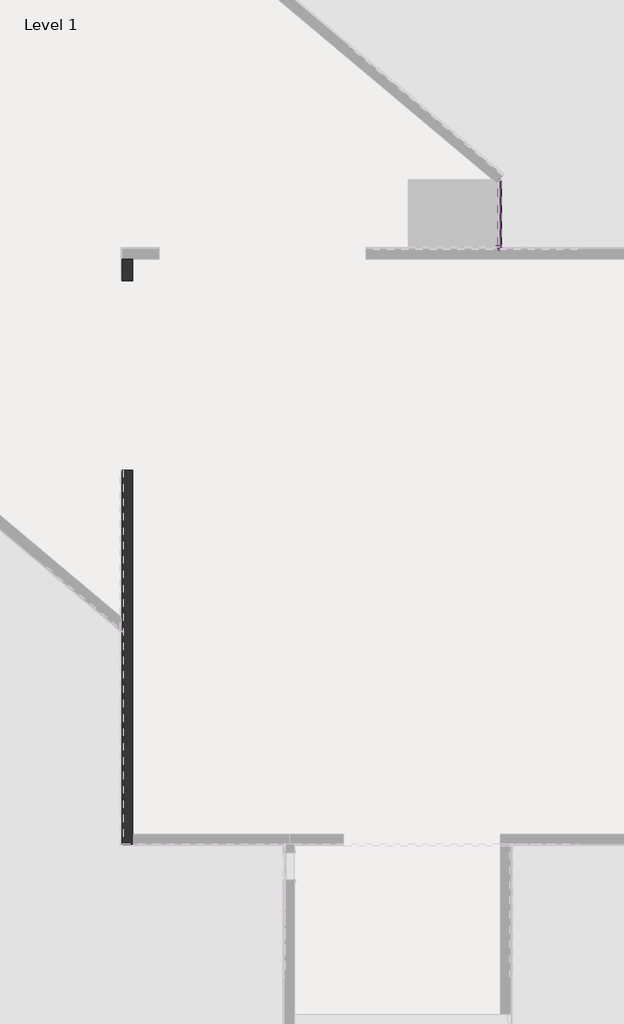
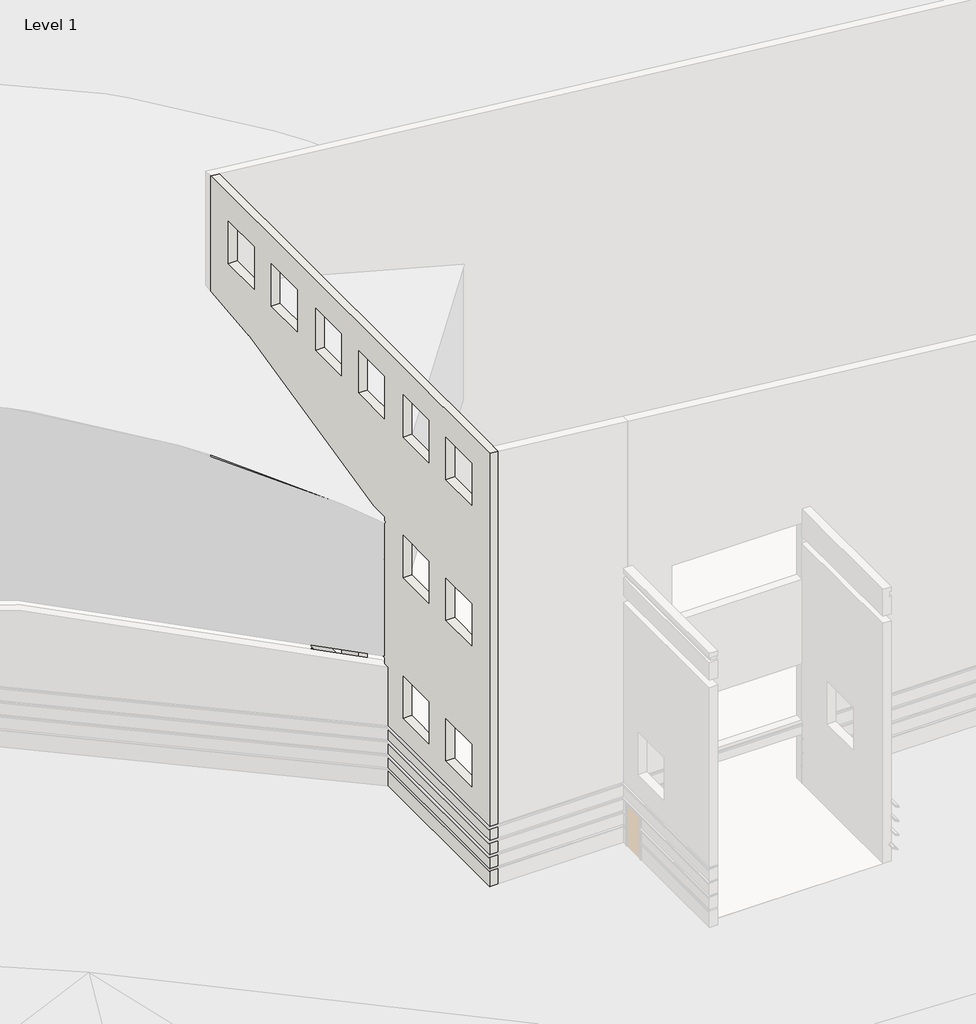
# One storey, part 4 of 6: 8 members, 3 plates, 1 wall.
"""IFC4 building model written with IfcOpenShell, lengths in millimetres."""

from ifc_helpers import new_model, si_unit, frame, origin, place, context, project, spatial, polyline, circle_curve, transform, mapped, element, save
from ifc_brep_helpers import plane_surface, revolved_surface, advanced_brep
from components import member_a82acab6, member_1b704979, member_34764c31, member_834be1e1, member_db8f3720, member_42eafe6b, system_panel_glazed_1ae2363b, system_panel_glazed_07eba4bf

model = new_model("IFC4")

# Units and contexts
model_context = context("Model", 3, world=origin())
ifc_project = project(units=[si_unit("LENGTHUNIT", "METRE", prefix="MILLI")], contexts=[model_context])

# Site, building, storey
site = spatial("IfcSite", under=ifc_project)
building = spatial("IfcBuilding", under=site)
storey = spatial("IfcBuildingStorey", under=building, Name="Level 1", Elevation=0.0)

# Members
placement = place(None, origin())
member_shape = member_a82acab6(model_context)
element("IfcMember", 1, ObjectType="Rectangular Mullion : 1.5\" x 2.5\" rectangular", at=placement, inside=storey, context=model_context, shape_type="MappedRepresentation", body=[
    mapped(member_shape, transform((-5348.7113943, 13077.3819938, 63.5), x_axis=(0.0, 1.0, 0.0), y_axis=(1.0, 0.0, 0.0), z_axis=(0.0, 0.0, -1.0))),
])
member_2_shape = member_1b704979(model_context)
element("IfcMember", 2, ObjectType="Rectangular Mullion : 1.5\" x 2.5\" rectangular", at=placement, inside=storey, context=model_context, shape_type="MappedRepresentation", body=[
    mapped(member_2_shape, transform((-5348.7113943, 13077.3819938, 1066.8), x_axis=(0.0, 1.0, 0.0), y_axis=(1.0, 0.0, 0.0), z_axis=(0.0, 0.0, -1.0))),
])
member_3_shape = member_34764c31(model_context)
element("IfcMember", 3, ObjectType="Rectangular Mullion : 2.5\" x 5\" rectangular", at=placement, inside=storey, context=model_context, shape_type="MappedRepresentation", body=[
    mapped(member_3_shape, transform((-5348.7113943, 13039.2819938, 1066.8), x_axis=(0.0, 0.0, 1.0), y_axis=(1.0, 0.0, 0.0), z_axis=(0.0, 1.0, 0.0))),
])
element("IfcMember", 4, ObjectType="Rectangular Mullion : 2.5\" x 5\" rectangular", at=placement, inside=storey, context=model_context, shape_type="MappedRepresentation", body=[
    mapped(member_3_shape, transform((-5348.7113943, 13039.2819938, 2133.6), x_axis=(0.0, 0.0, 1.0), y_axis=(1.0, 0.0, 0.0), z_axis=(0.0, 1.0, 0.0))),
])
member_4_shape = member_834be1e1(model_context)
element("IfcMember", 5, ObjectType="Rectangular Mullion : 2.5\" x 5\" rectangular", at=placement, inside=storey, context=model_context, shape_type="MappedRepresentation", body=[
    mapped(member_4_shape, transform((-5348.7113943, 10769.3870607, 0.0), x_axis=(0.0, 0.0, -1.0), y_axis=(1.0, 0.0, 0.0), z_axis=(0.0, -1.0, 0.0))),
])
member_5_shape = member_db8f3720(model_context)
element("IfcMember", 6, ObjectType="V Corner Mullion : 5\" V Corner", at=placement, inside=storey, context=model_context, shape_type="MappedRepresentation", body=[
    mapped(member_5_shape, transform((-5348.7113943, 10769.3870607, 2133.6), x_axis=(0.0, -1.0, 0.0), y_axis=(1.0, 0.0, 0.0), z_axis=(0.0, 0.0, 1.0))),
])
element("IfcMember", 7, ObjectType="V Corner Mullion : 5\" V Corner", at=placement, inside=storey, context=model_context, shape_type="MappedRepresentation", body=[
    mapped(member_5_shape, transform((-5348.7113943, 10769.3870607, 3200.4), x_axis=(0.0, -1.0, 0.0), y_axis=(1.0, 0.0, 0.0), z_axis=(0.0, 0.0, 1.0))),
])
member_6_shape = member_42eafe6b(model_context)
element("IfcMember", 8, ObjectType="V Corner Mullion : 5\" V Corner", at=placement, inside=storey, context=model_context, shape_type="MappedRepresentation", body=[
    mapped(member_6_shape, transform((-5348.7113943, 10769.3870607, 1066.8), x_axis=(0.0, -1.0, 0.0), y_axis=(1.0, 0.0, 0.0), z_axis=(0.0, 0.0, 1.0))),
])

# Plates
system_panel_glazed_shape = system_panel_glazed_1ae2363b(model_context)
element("IfcPlate", 9, ObjectType="System Panel : Glazed", at=placement, inside=storey, context=model_context, shape_type="MappedRepresentation", body=[
    mapped(system_panel_glazed_shape, transform((-5348.7113943, 11940.5959678, 63.5), x_axis=(0.0, -1.0, 0.0), y_axis=(1.0, 0.0, 0.0), z_axis=(0.0, 0.0, 1.0))),
])
system_panel_glazed_2_shape = system_panel_glazed_07eba4bf(model_context)
element("IfcPlate", 10, ObjectType="System Panel : Glazed", at=placement, inside=storey, context=model_context, shape_type="MappedRepresentation", body=[
    mapped(system_panel_glazed_2_shape, transform((-5348.7113943, 11940.5959678, 1098.55), x_axis=(0.0, -1.0, 0.0), y_axis=(1.0, 0.0, 0.0), z_axis=(0.0, 0.0, 1.0))),
])
element("IfcPlate", 11, ObjectType="System Panel : Glazed", at=placement, inside=storey, context=model_context, shape_type="MappedRepresentation", body=[
    mapped(system_panel_glazed_2_shape, transform((-5348.7113943, 11940.5959678, 2165.35), x_axis=(0.0, -1.0, 0.0), y_axis=(1.0, 0.0, 0.0), z_axis=(0.0, 0.0, 1.0))),
])

# Wall
element("IfcWall", 12, ObjectType="Exterior - Brick and CMU on MTL. Stud", at=placement, inside=storey, context=model_context, shape_type="AdvancedBrep", body=[
    advanced_brep(
    [(-17777.1136573, 3243.0495607, 5486.4), (-17777.1136573, 9643.8495607, 5486.4), (-17777.1136573, 9643.8495607, 304.8), (-17777.1136573, 10382.0370607, 304.8), (-17777.1136573, 10382.0370607, 19055.1063791), (-17777.1136573, -9077.5379393, 19055.1063791), (-17777.1136573, -9429.9629393, 19055.1063791), (-17777.1136573, -9429.9629393, 2912.5333333), (-17777.1136573, -9404.5629393, 2912.5333333), (-17777.1136573, -9404.5629393, 2844.8), (-17777.1136573, -9429.9629393, 2844.8), (-17777.1136573, -9429.9629393, 2302.9333333), (-17777.1136573, -9404.5629393, 2302.9333333), (-17777.1136573, -9404.5629393, 2235.2), (-17777.1136573, -9429.9629393, 2235.2), (-17777.1136573, -9429.9629393, 1693.3333333), (-17777.1136573, -9404.5629393, 1693.3333333), (-17777.1136573, -9404.5629393, 1625.6), (-17777.1136573, -9429.9629393, 1625.6), (-17777.1136573, -9429.9629393, 1085.85), (-17777.1136573, -9337.8879393, 1085.85), (-17777.1136573, -9337.8879393, 1016.0), (-17777.1136573, -9429.9629393, 1016.0), (-17777.1136573, -9429.9629393, 0.0), (-17777.1136573, -9090.2379393, 0.0), (-17777.1136573, -9090.2379393, 304.8), (-17777.1136573, -9077.5379393, 304.8), (-17777.1136573, 3243.0495607, 304.8), (-17777.1136573, 3852.6495607, 11582.4), (-17777.1136573, 9161.9803961, 11582.4), (-17777.1136573, 9161.9803961, 9144.0), (-17777.1136573, 3852.6495607, 9144.0), (-17777.1136573, -8161.5504393, 16067.2335849), (-17777.1136573, -8161.5504393, 17896.0335849), (-17777.1136573, -6332.7504393, 17896.0335849), (-17777.1136573, -6332.7504393, 16067.2335849), (-17777.1136573, -5113.5504393, 16067.2335849), (-17777.1136573, -5113.5504393, 17896.0335849), (-17777.1136573, -3284.7504393, 17896.0335849), (-17777.1136573, -3284.7504393, 16067.2335849), (-17777.1136573, 9113.6245607, 17896.0335849), (-17777.1136573, 9113.6245607, 16067.2335849), (-17777.1136573, 7284.8245607, 16067.2335849), (-17777.1136573, 7284.8245607, 17896.0335849), (-17777.1136573, 6065.6245607, 17896.0335849), (-17777.1136573, 6065.6245607, 16067.2335849), (-17777.1136573, 4236.8245607, 16067.2335849), (-17777.1136573, 4236.8245607, 17896.0335849), (-17777.1136573, -8161.5504393, 9971.2335849), (-17777.1136573, -8161.5504393, 11800.0335849), (-17777.1136573, -6332.7504393, 11800.0335849), (-17777.1136573, -6332.7504393, 9971.2335849), (-17777.1136573, -5113.5504393, 9971.2335849), (-17777.1136573, -5113.5504393, 11800.0335849), (-17777.1136573, -3284.7504393, 11800.0335849), (-17777.1136573, -3284.7504393, 9971.2335849), (-17777.1136573, -8161.5504393, 3875.2335849), (-17777.1136573, -8161.5504393, 5704.0335849), (-17777.1136573, -6332.7504393, 5704.0335849), (-17777.1136573, -6332.7504393, 3875.2335849), (-17777.1136573, -5113.5504393, 3875.2335849), (-17777.1136573, -5113.5504393, 5704.0335849), (-17777.1136573, -3284.7504393, 5704.0335849), (-17777.1136573, -3284.7504393, 3875.2335849), (-17777.1136573, -1962.3629393, 16067.2335849), (-17777.1136573, -1962.3629393, 17896.0335849), (-17777.1136573, -133.5629393, 17896.0335849), (-17777.1136573, -133.5629393, 16067.2335849), (-17777.1136573, 1085.6370607, 16067.2335849), (-17777.1136573, 1085.6370607, 17896.0335849), (-17777.1136573, 2914.4370607, 17896.0335849), (-17777.1136573, 2914.4370607, 16067.2335849), (-17777.1136573, -1962.3629393, 9971.2335849), (-17777.1136573, -1962.3629393, 11800.0335849), (-17777.1136573, -133.5629393, 11800.0335849), (-17777.1136573, -133.5629393, 9971.2335849), (-17777.1136573, 1085.6370607, 9971.2335849), (-17777.1136573, 1085.6370607, 11800.0335849), (-17777.1136573, 2914.4370607, 11800.0335849), (-17777.1136573, 2914.4370607, 9971.2335849), (-17777.1136573, -1962.3629393, 3875.2335849), (-17777.1136573, -1962.3629393, 5704.0335849), (-17777.1136573, -133.5629393, 5704.0335849), (-17777.1136573, -133.5629393, 3875.2335849), (-17777.1136573, 1085.6370607, 3875.2335849), (-17777.1136573, 1085.6370607, 5704.0335849), (-17777.1136573, 2914.4370607, 5704.0335849), (-17777.1136573, 2914.4370607, 3875.2335849), (-18129.5386573, 9643.8495607, 5486.4), (-18129.5386573, 3243.0495607, 5486.4), (-18129.5386573, 3243.0495607, 3048.0), (-18129.5386573, 3011.2707354, 3048.0), (-18129.5386573, 3011.2707354, 2943.225), (-18129.5386573, 3243.0495607, 2943.225), (-18129.5386573, 3243.0495607, 2912.5333333), (-18129.5386573, -2189.4444924, 2912.5333333), (-18129.5386573, -2222.6018375, 2912.5333333), (-18129.5386573, -9429.9629393, 2912.5333333), (-18129.5386573, -9429.9629393, 19092.1477392), (-18129.5386573, 10382.0370607, 19092.1477392), (-18129.5386573, 10382.0370607, 3048.0), (-18129.5386573, 9643.8495607, 3048.0), (-18129.5386573, 9161.9803961, 11582.4), (-18129.5386573, 3852.6495607, 11582.4), (-18129.5386573, 3852.6495607, 9144.0), (-18129.5386573, 9161.9803961, 9144.0), (-18129.5386573, -8161.5504393, 17896.0335849), (-18129.5386573, -8161.5504393, 16067.2335849), (-18129.5386573, -6332.7504393, 16067.2335849), (-18129.5386573, -6332.7504393, 17896.0335849), (-18129.5386573, -5113.5504393, 17896.0335849), (-18129.5386573, -5113.5504393, 16067.2335849), (-18129.5386573, -3284.7504393, 16067.2335849), (-18129.5386573, -3284.7504393, 17896.0335849), (-18129.5386573, 9113.6245607, 16067.2335849), (-18129.5386573, 9113.6245607, 17896.0335849), (-18129.5386573, 7284.8245607, 17896.0335849), (-18129.5386573, 7284.8245607, 16067.2335849), (-18129.5386573, 6065.6245607, 16067.2335849), (-18129.5386573, 6065.6245607, 17896.0335849), (-18129.5386573, 4236.8245607, 17896.0335849), (-18129.5386573, 4236.8245607, 16067.2335849), (-18129.5386573, -8161.5504393, 11800.0335849), (-18129.5386573, -8161.5504393, 9971.2335849), (-18129.5386573, -6332.7504393, 9971.2335849), (-18129.5386573, -6332.7504393, 11800.0335849), (-18129.5386573, -5113.5504393, 11800.0335849), (-18129.5386573, -5113.5504393, 9971.2335849), (-18129.5386573, -3284.7504393, 9971.2335849), (-18129.5386573, -3284.7504393, 11800.0335849), (-18129.5386573, -8161.5504393, 5704.0335849), (-18129.5386573, -8161.5504393, 3875.2335849), (-18129.5386573, -6332.7504393, 3875.2335849), (-18129.5386573, -6332.7504393, 5704.0335849), (-18129.5386573, -5113.5504393, 5704.0335849), (-18129.5386573, -5113.5504393, 3875.2335849), (-18129.5386573, -3284.7504393, 3875.2335849), (-18129.5386573, -3284.7504393, 5704.0335849), (-18129.5386573, -1962.3629393, 17896.0335849), (-18129.5386573, -1962.3629393, 16067.2335849), (-18129.5386573, -133.5629393, 16067.2335849), (-18129.5386573, -133.5629393, 17896.0335849), (-18129.5386573, 1085.6370607, 17896.0335849), (-18129.5386573, 1085.6370607, 16067.2335849), (-18129.5386573, 2914.4370607, 16067.2335849), (-18129.5386573, 2914.4370607, 17896.0335849), (-18129.5386573, -1962.3629393, 11800.0335849), (-18129.5386573, -1962.3629393, 9971.2335849), (-18129.5386573, -133.5629393, 9971.2335849), (-18129.5386573, -133.5629393, 11800.0335849), (-18129.5386573, 1085.6370607, 11800.0335849), (-18129.5386573, 1085.6370607, 9971.2335849), (-18129.5386573, 2914.4370607, 9971.2335849), (-18129.5386573, 2914.4370607, 11800.0335849), (-18129.5386573, -1962.3629393, 5704.0335849), (-18129.5386573, -1962.3629393, 3875.2335849), (-18129.5386573, -133.5629393, 3875.2335849), (-18129.5386573, -133.5629393, 5704.0335849), (-18129.5386573, 1085.6370607, 5704.0335849), (-18129.5386573, 1085.6370607, 3875.2335849), (-18129.5386573, 2914.4370607, 3875.2335849), (-18129.5386573, 2914.4370607, 5704.0335849), (-18129.5386573, 10382.0370607, 1693.3333333), (-18129.5386573, 9643.8495607, 1693.3333333), (-18129.5386573, 9643.8495607, 2235.2), (-18129.5386573, 10382.0370607, 2235.2), (-18129.5386573, 9643.8495607, 1625.6), (-18129.5386573, 10382.0370607, 1625.6), (-18129.5386573, 10382.0370607, 1085.85), (-18129.5386573, 9643.8495607, 1085.85), (-18129.5386573, 3243.0495607, 1693.3333333), (-18129.5386573, -2189.4444924, 1693.3333333), (-18129.5386573, -2222.6018375, 1693.3333333), (-18129.5386573, -9429.9629393, 1693.3333333), (-18129.5386573, -9429.9629393, 2235.2), (-18129.5386573, -2222.6018375, 2235.2), (-18129.5386573, -2189.4444924, 2235.2), (-18129.5386573, 3243.0495607, 2235.2), (-18129.5386573, -9429.9629393, 1625.6), (-18129.5386573, -2222.6018375, 1625.6), (-18129.5386573, -2189.4444924, 1625.6), (-18129.5386573, 3243.0495607, 1625.6), (-18129.5386573, 3243.0495607, 1085.85), (-18129.5386573, -2102.4064614, 1085.85), (-18129.5386573, -2222.6018375, 1085.85), (-18129.5386573, -9429.9629393, 1085.85), (-18129.5386573, 10382.0370607, 2302.9333333), (-18129.5386573, 9643.8495607, 2302.9333333), (-18129.5386573, 9643.8495607, 2844.8), (-18129.5386573, 10382.0370607, 2844.8), (-18129.5386573, 3243.0495607, 2302.9333333), (-18129.5386573, -2189.4444924, 2302.9333333), (-18129.5386573, -2222.6018375, 2302.9333333), (-18129.5386573, -9429.9629393, 2302.9333333), (-18129.5386573, -9429.9629393, 2844.8), (-18129.5386573, -2222.6018375, 2844.8), (-18129.5386573, -2189.4444924, 2844.8), (-18129.5386573, 3243.0495607, 2844.8), (-18129.5386573, 10382.0370607, 2912.5333333), (-18129.5386573, 9643.8495607, 2912.5333333), (-18129.5386573, 9643.8495607, 2943.225), (-18129.5386573, 10382.0370607, 2943.225), (-18129.5386573, -9429.9629393, 0.0), (-18129.5386573, -9429.9629393, 1016.0), (-18129.5386573, -2222.6018375, 1016.0), (-18129.5386573, -2102.4064614, 1016.0), (-18129.5386573, 3243.0495607, 1016.0), (-18129.5386573, 3243.0495607, 304.8), (-18129.5386573, -1992.5727556, 304.8), (-18129.5386573, -1992.5727556, 0.0), (-18129.5386573, -2222.6018375, 0.0), (-18129.5386573, 9643.8495607, 1016.0), (-18129.5386573, 10382.0370607, 1016.0), (-18129.5386573, 10382.0370607, 304.8), (-18129.5386573, 9643.8495607, 304.8), (-18037.4636573, -9429.9629393, 0.0), (-18037.4636573, -2069.8328541, 0.0), (-17789.8136573, -2277.6358778, 0.0), (-17789.8136573, -9090.2379393, 0.0), (-18037.4636573, 10382.0370607, 1016.0), (-18037.4636573, 10382.0370607, 1085.85), (-18104.1386573, 10382.0370607, 1625.6), (-18104.1386573, 10382.0370607, 1693.3333333), (-18104.1386573, 10382.0370607, 2235.2), (-18104.1386573, 10382.0370607, 2302.9333333), (-18104.1386573, 10382.0370607, 2844.8), (-18104.1386573, 10382.0370607, 2912.5333333), (-17789.8136573, 10382.0370607, 2943.225), (-17789.8136573, 10382.0370607, 3048.0), (-18037.4636573, 3243.0495607, 1016.0), (-18037.4636573, 3243.0495607, 1085.85), (-18104.1386573, 3243.0495607, 1625.6), (-18104.1386573, 3243.0495607, 1693.3333333), (-18104.1386573, 3243.0495607, 2235.2), (-18104.1386573, 3243.0495607, 2302.9333333), (-18104.1386573, 3243.0495607, 2844.8), (-18104.1386573, 3243.0495607, 2912.5333333), (-17789.8136573, 3243.0495607, 2943.225), (-17789.8136573, 3243.0495607, 3048.0), (-17789.8136573, 9643.8495607, 3048.0), (-17789.8136573, 9643.8495607, 2943.225), (-18104.1386573, 9643.8495607, 2912.5333333), (-18104.1386573, 9643.8495607, 2844.8), (-18104.1386573, 9643.8495607, 2302.9333333), (-18104.1386573, 9643.8495607, 2235.2), (-18104.1386573, 9643.8495607, 1693.3333333), (-18104.1386573, 9643.8495607, 1625.6), (-18037.4636573, 9643.8495607, 1085.85), (-18037.4636573, 9643.8495607, 1016.0), (-18104.1386573, -9404.5629393, 1693.3333333), (-18104.1386573, -9404.5629393, 1625.6), (-18104.1386573, -9404.5629393, 2302.9333333), (-18104.1386573, -9404.5629393, 2235.2), (-18104.1386573, -9404.5629393, 2912.5333333), (-18104.1386573, -9404.5629393, 2844.8), (-18037.4636573, -9337.8879393, 1085.85), (-18037.4636573, -9337.8879393, 1016.0), (-17789.8136573, 2943.4272892, 2943.225), (-17789.8136573, 2943.4272892, 3048.0), (-17789.8136573, -9090.2379393, 304.8), (-17789.8136573, -2277.6358778, 304.8)],
    [
        (0, 1),
        (1, 2),
        (2, 3),
        (3, 4),
        (4, 5),
        (5, 6),
        (6, 7),
        (7, 8),
        (8, 9),
        (9, 10),
        (10, 11),
        (11, 12),
        (12, 13),
        (13, 14),
        (14, 15),
        (15, 16),
        (16, 17),
        (17, 18),
        (18, 19),
        (19, 20),
        (20, 21),
        (21, 22),
        (22, 23),
        (23, 24),
        (24, 25),
        (25, 26),
        (26, 27),
        (27, 0),
        (28, 29),
        (29, 30),
        (30, 31),
        (31, 28),
        (32, 33),
        (33, 34),
        (34, 35),
        (35, 32),
        (36, 37),
        (37, 38),
        (38, 39),
        (39, 36),
        (40, 41),
        (41, 42),
        (42, 43),
        (43, 40),
        (44, 45),
        (45, 46),
        (46, 47),
        (47, 44),
        (48, 49),
        (49, 50),
        (50, 51),
        (51, 48),
        (52, 53),
        (53, 54),
        (54, 55),
        (55, 52),
        (56, 57),
        (57, 58),
        (58, 59),
        (59, 56),
        (60, 61),
        (61, 62),
        (62, 63),
        (63, 60),
        (64, 65),
        (65, 66),
        (66, 67),
        (67, 64),
        (68, 69),
        (69, 70),
        (70, 71),
        (71, 68),
        (72, 73),
        (73, 74),
        (74, 75),
        (75, 72),
        (76, 77),
        (77, 78),
        (78, 79),
        (79, 76),
        (80, 81),
        (81, 82),
        (82, 83),
        (83, 80),
        (84, 85),
        (85, 86),
        (86, 87),
        (87, 84),
        (88, 89),
        (89, 90),
        (90, 91),
        (91, 92),
        (92, 93),
        (93, 94),
        (94, 95),
        (95, 96),
        (96, 97),
        (97, 98),
        (98, 99),
        (99, 100),
        (100, 101),
        (101, 88),
        (102, 103),
        (103, 104),
        (104, 105),
        (105, 102),
        (106, 107),
        (107, 108),
        (108, 109),
        (109, 106),
        (110, 111),
        (111, 112),
        (112, 113),
        (113, 110),
        (114, 115),
        (115, 116),
        (116, 117),
        (117, 114),
        (118, 119),
        (119, 120),
        (120, 121),
        (121, 118),
        (122, 123),
        (123, 124),
        (124, 125),
        (125, 122),
        (126, 127),
        (127, 128),
        (128, 129),
        (129, 126),
        (130, 131),
        (131, 132),
        (132, 133),
        (133, 130),
        (134, 135),
        (135, 136),
        (136, 137),
        (137, 134),
        (138, 139),
        (139, 140),
        (140, 141),
        (141, 138),
        (142, 143),
        (143, 144),
        (144, 145),
        (145, 142),
        (146, 147),
        (147, 148),
        (148, 149),
        (149, 146),
        (150, 151),
        (151, 152),
        (152, 153),
        (153, 150),
        (154, 155),
        (155, 156),
        (156, 157),
        (157, 154),
        (158, 159),
        (159, 160),
        (160, 161),
        (161, 158),
        (162, 163),
        (163, 164),
        (164, 165),
        (165, 162),
        (166, 167),
        (167, 168),
        (168, 169),
        (169, 166),
        (170, 171),
        (171, 172),
        (172, 173),
        (173, 174),
        (174, 175),
        (175, 176),
        (176, 177),
        (177, 170),
        (178, 179),
        (179, 180),
        (180, 181),
        (181, 182),
        (182, 183),
        (183, 184),
        (184, 185),
        (185, 178),
        (186, 187),
        (187, 188),
        (188, 189),
        (189, 186),
        (190, 191),
        (191, 192),
        (192, 193),
        (193, 194),
        (194, 195),
        (195, 196),
        (196, 197),
        (197, 190),
        (198, 199),
        (199, 200),
        (200, 201),
        (201, 198),
        (202, 203),
        (203, 204),
        (204, 205),
        (205, 206),
        (206, 207),
        (207, 208),
        (208, 209),
        (209, 210),
        (210, 202),
        (211, 212),
        (212, 213),
        (213, 214),
        (214, 211),
        (23, 215),
        (215, 216),
        (216, 217),
        (217, 218),
        (218, 24),
        (22, 203),
        (202, 215),
        (6, 98),
        (97, 7),
        (173, 15),
        (14, 174),
        (18, 178),
        (185, 19),
        (193, 11),
        (10, 194),
        (99, 4),
        (3, 213),
        (212, 219),
        (219, 220),
        (220, 168),
        (167, 221),
        (221, 222),
        (222, 162),
        (165, 223),
        (223, 224),
        (224, 186),
        (189, 225),
        (225, 226),
        (226, 198),
        (201, 227),
        (227, 228),
        (228, 100),
        (0, 89),
        (88, 1),
        (27, 207),
        (206, 229),
        (229, 230),
        (230, 182),
        (181, 231),
        (231, 232),
        (232, 170),
        (177, 233),
        (233, 234),
        (234, 190),
        (197, 235),
        (235, 236),
        (236, 94),
        (93, 237),
        (237, 238),
        (238, 90),
        (101, 239),
        (239, 240),
        (240, 200),
        (199, 241),
        (241, 242),
        (242, 188),
        (187, 243),
        (243, 244),
        (244, 164),
        (163, 245),
        (245, 246),
        (246, 166),
        (169, 247),
        (247, 248),
        (248, 211),
        (214, 2),
        (209, 216),
        (28, 103),
        (102, 29),
        (30, 105),
        (104, 31),
        (106, 33),
        (32, 107),
        (35, 108),
        (34, 109),
        (110, 37),
        (36, 111),
        (39, 112),
        (38, 113),
        (40, 115),
        (114, 41),
        (117, 42),
        (116, 43),
        (44, 119),
        (118, 45),
        (121, 46),
        (120, 47),
        (122, 49),
        (48, 123),
        (51, 124),
        (50, 125),
        (126, 53),
        (52, 127),
        (55, 128),
        (54, 129),
        (130, 57),
        (56, 131),
        (59, 132),
        (58, 133),
        (134, 61),
        (60, 135),
        (63, 136),
        (62, 137),
        (138, 65),
        (64, 139),
        (67, 140),
        (66, 141),
        (142, 69),
        (68, 143),
        (71, 144),
        (70, 145),
        (146, 73),
        (72, 147),
        (75, 148),
        (74, 149),
        (150, 77),
        (76, 151),
        (79, 152),
        (78, 153),
        (154, 81),
        (80, 155),
        (83, 156),
        (82, 157),
        (158, 85),
        (84, 159),
        (87, 160),
        (86, 161),
        (232, 249),
        (249, 16),
        (250, 231),
        (17, 250),
        (249, 250),
        (222, 245),
        (246, 221),
        (234, 251),
        (251, 12),
        (252, 233),
        (13, 252),
        (251, 252),
        (224, 243),
        (244, 223),
        (236, 253),
        (253, 8),
        (254, 235),
        (9, 254),
        (253, 254),
        (226, 241),
        (242, 225),
        (230, 255),
        (255, 20),
        (256, 229),
        (21, 256),
        (255, 256),
        (220, 247),
        (248, 219),
        (92, 257, circle_curve(frame((-16606.4056585, 9753.8299598, 2943.225), z_axis=(0.0, 0.0, 1.0), x_axis=(1.0, 0.0, 0.0)), 6912.4553545)),
        (257, 237),
        (240, 227),
        (238, 258),
        (258, 91, circle_curve(frame((-16606.4056585, 9753.8299598, 3048.0), z_axis=(0.0, 0.0, -1.0), x_axis=(1.0, 0.0, 0.0)), 6912.4553545)),
        (228, 239),
        (257, 258),
        (259, 260),
        (260, 208),
        (25, 259),
        (218, 259),
        (217, 260),
    ],
    [
        plane_surface(frame((-17777.1136573, 10070.7162579, 0.0), z_axis=(1.0, 0.0, 0.0), x_axis=(0.0, 1.0, 0.0))),
        plane_surface(frame((-18129.5386573, 10070.7162579, 0.0), z_axis=(-1.0, 0.0, 0.0), x_axis=(0.0, -1.0, 0.0))),
        plane_surface(frame((-17777.1136573, -9253.7504393, 0.0), z_axis=(0.0, 0.0, -1.0), x_axis=(-1.0, 0.0, 0.0))),
        plane_surface(frame((18165.4738427, -9429.9629393, 0.0), z_axis=(0.0, -1.0, 0.0), x_axis=(1.0, 0.0, 0.0))),
        plane_surface(frame((-17953.3261573, 10382.0370607, 0.0), z_axis=(0.0, 1.0, 0.0), x_axis=(1.0, 0.0, 0.0))),
        plane_surface(frame((-18129.5386573, 3243.0495607, 5486.4), z_axis=(0.0, 0.0, -1.0), x_axis=(0.0, -1.0, 0.0))),
        plane_surface(frame((-18129.5386573, 3243.0495607, 5486.4), z_axis=(0.0, 1.0, 0.0), x_axis=(0.0, 0.0, -1.0))),
        plane_surface(frame((-17777.1136573, 9643.8495607, 5486.4), z_axis=(0.0, -1.0, 0.0), x_axis=(0.0, 0.0, -1.0))),
        plane_surface(frame((0.0, 0.0, 0.0), z_axis=(0.0, 0.0, -1.0), x_axis=(1.0, 0.0, 0.0))),
        plane_surface(frame((19653.3535836, 11867.9370607, 15121.0057441), z_axis=(0.1045284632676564, 0.0, 0.9945218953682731), x_axis=(0.0, -1.0, 0.0))),
        plane_surface(frame((-18129.5386573, 3852.6495607, 11582.4), z_axis=(0.0, 0.0, -1.0), x_axis=(0.0, -1.0, 0.0))),
        plane_surface(frame((-18129.5386573, 3852.6495607, 9144.0), z_axis=(0.0, 0.0, 1.0), x_axis=(0.0, 1.0, 0.0))),
        plane_surface(frame((-18129.5386573, 3852.6495607, 11582.4), z_axis=(0.0, 1.0, 0.0), x_axis=(0.0, 0.0, -1.0))),
        plane_surface(frame((-17777.1136573, 9161.9803961, 11582.4), z_axis=(0.0, -1.0, 0.0), x_axis=(0.0, 0.0, -1.0))),
        plane_surface(frame((-18129.5386573, -8161.5504393, 17896.0335849), z_axis=(0.0, 1.0, 0.0), x_axis=(1.0, 0.0, 0.0))),
        plane_surface(frame((-18129.5386573, -8161.5504393, 16067.2335849), z_axis=(0.0, 0.0, 1.0), x_axis=(1.0, 0.0, 0.0))),
        plane_surface(frame((-18129.5386573, -6332.7504393, 16067.2335849), z_axis=(0.0, -1.0, 0.0), x_axis=(1.0, 0.0, 0.0))),
        plane_surface(frame((-18129.5386573, -6332.7504393, 17896.0335849), z_axis=(0.0, 0.0, -1.0), x_axis=(1.0, 0.0, 0.0))),
        plane_surface(frame((-18129.5386573, -5113.5504393, 17896.0335849), z_axis=(0.0, 1.0, 0.0), x_axis=(1.0, 0.0, 0.0))),
        plane_surface(frame((-18129.5386573, -5113.5504393, 16067.2335849), z_axis=(0.0, 0.0, 1.0), x_axis=(1.0, 0.0, 0.0))),
        plane_surface(frame((-18129.5386573, -3284.7504393, 16067.2335849), z_axis=(0.0, -1.0, 0.0), x_axis=(1.0, 0.0, 0.0))),
        plane_surface(frame((-18129.5386573, -3284.7504393, 17896.0335849), z_axis=(0.0, 0.0, -1.0), x_axis=(1.0, 0.0, 0.0))),
        plane_surface(frame((-17777.1136573, 9113.6245607, 17896.0335849), z_axis=(0.0, -1.0, 0.0), x_axis=(-1.0, 0.0, 0.0))),
        plane_surface(frame((-17777.1136573, 9113.6245607, 16067.2335849), z_axis=(0.0, 0.0, 1.0), x_axis=(-1.0, 0.0, 0.0))),
        plane_surface(frame((-17777.1136573, 7284.8245607, 16067.2335849), z_axis=(0.0, 1.0, 0.0), x_axis=(-1.0, 0.0, 0.0))),
        plane_surface(frame((-17777.1136573, 7284.8245607, 17896.0335849), z_axis=(0.0, 0.0, -1.0), x_axis=(-1.0, 0.0, 0.0))),
        plane_surface(frame((-17777.1136573, 6065.6245607, 17896.0335849), z_axis=(0.0, -1.0, 0.0), x_axis=(-1.0, 0.0, 0.0))),
        plane_surface(frame((-17777.1136573, 6065.6245607, 16067.2335849), z_axis=(0.0, 0.0, 1.0), x_axis=(-1.0, 0.0, 0.0))),
        plane_surface(frame((-17777.1136573, 4236.8245607, 16067.2335849), z_axis=(0.0, 1.0, 0.0), x_axis=(-1.0, 0.0, 0.0))),
        plane_surface(frame((-17777.1136573, 4236.8245607, 17896.0335849), z_axis=(0.0, 0.0, -1.0), x_axis=(-1.0, 0.0, 0.0))),
        plane_surface(frame((-18129.5386573, -8161.5504393, 11800.0335849), z_axis=(0.0, 1.0, 0.0), x_axis=(1.0, 0.0, 0.0))),
        plane_surface(frame((-18129.5386573, -8161.5504393, 9971.2335849), z_axis=(0.0, 0.0, 1.0), x_axis=(1.0, 0.0, 0.0))),
        plane_surface(frame((-18129.5386573, -6332.7504393, 9971.2335849), z_axis=(0.0, -1.0, 0.0), x_axis=(1.0, 0.0, 0.0))),
        plane_surface(frame((-18129.5386573, -6332.7504393, 11800.0335849), z_axis=(0.0, 0.0, -1.0), x_axis=(1.0, 0.0, 0.0))),
        plane_surface(frame((-18129.5386573, -5113.5504393, 11800.0335849), z_axis=(0.0, 1.0, 0.0), x_axis=(1.0, 0.0, 0.0))),
        plane_surface(frame((-18129.5386573, -5113.5504393, 9971.2335849), z_axis=(0.0, 0.0, 1.0), x_axis=(1.0, 0.0, 0.0))),
        plane_surface(frame((-18129.5386573, -3284.7504393, 9971.2335849), z_axis=(0.0, -1.0, 0.0), x_axis=(1.0, 0.0, 0.0))),
        plane_surface(frame((-18129.5386573, -3284.7504393, 11800.0335849), z_axis=(0.0, 0.0, -1.0), x_axis=(1.0, 0.0, 0.0))),
        plane_surface(frame((-18129.5386573, -8161.5504393, 5704.0335849), z_axis=(0.0, 1.0, 0.0), x_axis=(1.0, 0.0, 0.0))),
        plane_surface(frame((-18129.5386573, -8161.5504393, 3875.2335849), z_axis=(0.0, 0.0, 1.0), x_axis=(1.0, 0.0, 0.0))),
        plane_surface(frame((-18129.5386573, -6332.7504393, 3875.2335849), z_axis=(0.0, -1.0, 0.0), x_axis=(1.0, 0.0, 0.0))),
        plane_surface(frame((-18129.5386573, -6332.7504393, 5704.0335849), z_axis=(0.0, 0.0, -1.0), x_axis=(1.0, 0.0, 0.0))),
        plane_surface(frame((-18129.5386573, -5113.5504393, 5704.0335849), z_axis=(0.0, 1.0, 0.0), x_axis=(1.0, 0.0, 0.0))),
        plane_surface(frame((-18129.5386573, -5113.5504393, 3875.2335849), z_axis=(0.0, 0.0, 1.0), x_axis=(1.0, 0.0, 0.0))),
        plane_surface(frame((-18129.5386573, -3284.7504393, 3875.2335849), z_axis=(0.0, -1.0, 0.0), x_axis=(1.0, 0.0, 0.0))),
        plane_surface(frame((-18129.5386573, -3284.7504393, 5704.0335849), z_axis=(0.0, 0.0, -1.0), x_axis=(1.0, 0.0, 0.0))),
        plane_surface(frame((-18129.5386573, -1962.3629393, 17896.0335849), z_axis=(0.0, 1.0, 0.0), x_axis=(1.0, 0.0, 0.0))),
        plane_surface(frame((-18129.5386573, -1962.3629393, 16067.2335849), z_axis=(0.0, 0.0, 1.0), x_axis=(1.0, 0.0, 0.0))),
        plane_surface(frame((-18129.5386573, -133.5629393, 16067.2335849), z_axis=(0.0, -1.0, 0.0), x_axis=(1.0, 0.0, 0.0))),
        plane_surface(frame((-18129.5386573, -133.5629393, 17896.0335849), z_axis=(0.0, 0.0, -1.0), x_axis=(1.0, 0.0, 0.0))),
        plane_surface(frame((-18129.5386573, 1085.6370607, 17896.0335849), z_axis=(0.0, 1.0, 0.0), x_axis=(1.0, 0.0, 0.0))),
        plane_surface(frame((-18129.5386573, 1085.6370607, 16067.2335849), z_axis=(0.0, 0.0, 1.0), x_axis=(1.0, 0.0, 0.0))),
        plane_surface(frame((-18129.5386573, 2914.4370607, 16067.2335849), z_axis=(0.0, -1.0, 0.0), x_axis=(1.0, 0.0, 0.0))),
        plane_surface(frame((-18129.5386573, 2914.4370607, 17896.0335849), z_axis=(0.0, 0.0, -1.0), x_axis=(1.0, 0.0, 0.0))),
        plane_surface(frame((-18129.5386573, -1962.3629393, 11800.0335849), z_axis=(0.0, 1.0, 0.0), x_axis=(1.0, 0.0, 0.0))),
        plane_surface(frame((-18129.5386573, -1962.3629393, 9971.2335849), z_axis=(0.0, 0.0, 1.0), x_axis=(1.0, 0.0, 0.0))),
        plane_surface(frame((-18129.5386573, -133.5629393, 9971.2335849), z_axis=(0.0, -1.0, 0.0), x_axis=(1.0, 0.0, 0.0))),
        plane_surface(frame((-18129.5386573, -133.5629393, 11800.0335849), z_axis=(0.0, 0.0, -1.0), x_axis=(1.0, 0.0, 0.0))),
        plane_surface(frame((-18129.5386573, 1085.6370607, 11800.0335849), z_axis=(0.0, 1.0, 0.0), x_axis=(1.0, 0.0, 0.0))),
        plane_surface(frame((-18129.5386573, 1085.6370607, 9971.2335849), z_axis=(0.0, 0.0, 1.0), x_axis=(1.0, 0.0, 0.0))),
        plane_surface(frame((-18129.5386573, 2914.4370607, 9971.2335849), z_axis=(0.0, -1.0, 0.0), x_axis=(1.0, 0.0, 0.0))),
        plane_surface(frame((-18129.5386573, 2914.4370607, 11800.0335849), z_axis=(0.0, 0.0, -1.0), x_axis=(1.0, 0.0, 0.0))),
        plane_surface(frame((-18129.5386573, -1962.3629393, 5704.0335849), z_axis=(0.0, 1.0, 0.0), x_axis=(1.0, 0.0, 0.0))),
        plane_surface(frame((-18129.5386573, -1962.3629393, 3875.2335849), z_axis=(0.0, 0.0, 1.0), x_axis=(1.0, 0.0, 0.0))),
        plane_surface(frame((-18129.5386573, -133.5629393, 3875.2335849), z_axis=(0.0, -1.0, 0.0), x_axis=(1.0, 0.0, 0.0))),
        plane_surface(frame((-18129.5386573, -133.5629393, 5704.0335849), z_axis=(0.0, 0.0, -1.0), x_axis=(1.0, 0.0, 0.0))),
        plane_surface(frame((-18129.5386573, 1085.6370607, 5704.0335849), z_axis=(0.0, 1.0, 0.0), x_axis=(1.0, 0.0, 0.0))),
        plane_surface(frame((-18129.5386573, 1085.6370607, 3875.2335849), z_axis=(0.0, 0.0, 1.0), x_axis=(1.0, 0.0, 0.0))),
        plane_surface(frame((-18129.5386573, 2914.4370607, 3875.2335849), z_axis=(0.0, -1.0, 0.0), x_axis=(1.0, 0.0, 0.0))),
        plane_surface(frame((-18129.5386573, 2914.4370607, 5704.0335849), z_axis=(0.0, 0.0, -1.0), x_axis=(1.0, 0.0, 0.0))),
        plane_surface(frame((-12643.1386573, -9404.5629393, 1693.3333333), z_axis=(0.0, 0.0, -1.0), x_axis=(-1.0, 0.0, 0.0))),
        plane_surface(frame((-12643.1386573, -9496.6379393, 1625.6), z_axis=(0.0, 0.0, 1.0), x_axis=(-1.0, 0.0, 0.0))),
        plane_surface(frame((-12643.1386573, -9404.5629393, 1625.6), z_axis=(0.0, -1.0, 0.0), x_axis=(-1.0, 0.0, 0.0))),
        plane_surface(frame((-18104.1386573, -9404.5629393, 1625.6), z_axis=(-1.0, 0.0, 0.0), x_axis=(0.0, 1.0, 0.0))),
        plane_surface(frame((-18104.1386573, 9643.8495607, 1693.3333333), z_axis=(0.0, 0.0, -1.0), x_axis=(0.0, 1.0, 0.0))),
        plane_surface(frame((-18196.2136573, 9643.8495607, 1625.6), z_axis=(0.0, 0.0, 1.0), x_axis=(0.0, 1.0, 0.0))),
        plane_surface(frame((-18104.1386573, 9643.8495607, 1625.6), z_axis=(-1.0, 0.0, 0.0), x_axis=(0.0, 1.0, 0.0))),
        plane_surface(frame((-12643.1386573, -9404.5629393, 2302.9333333), z_axis=(0.0, 0.0, -1.0), x_axis=(-1.0, 0.0, 0.0))),
        plane_surface(frame((-12643.1386573, -9496.6379393, 2235.2), z_axis=(0.0, 0.0, 1.0), x_axis=(-1.0, 0.0, 0.0))),
        plane_surface(frame((-12643.1386573, -9404.5629393, 2235.2), z_axis=(0.0, -1.0, 0.0), x_axis=(-1.0, 0.0, 0.0))),
        plane_surface(frame((-18104.1386573, -9404.5629393, 2235.2), z_axis=(-1.0, 0.0, 0.0), x_axis=(0.0, 1.0, 0.0))),
        plane_surface(frame((-18104.1386573, 9643.8495607, 2302.9333333), z_axis=(0.0, 0.0, -1.0), x_axis=(0.0, 1.0, 0.0))),
        plane_surface(frame((-18196.2136573, 9643.8495607, 2235.2), z_axis=(0.0, 0.0, 1.0), x_axis=(0.0, 1.0, 0.0))),
        plane_surface(frame((-18104.1386573, 9643.8495607, 2235.2), z_axis=(-1.0, 0.0, 0.0), x_axis=(0.0, 1.0, 0.0))),
        plane_surface(frame((-12643.1386573, -9404.5629393, 2912.5333333), z_axis=(0.0, 0.0, -1.0), x_axis=(-1.0, 0.0, 0.0))),
        plane_surface(frame((-12643.1386573, -9496.6379393, 2844.8), z_axis=(0.0, 0.0, 1.0), x_axis=(-1.0, 0.0, 0.0))),
        plane_surface(frame((-12643.1386573, -9404.5629393, 2844.8), z_axis=(0.0, -1.0, 0.0), x_axis=(-1.0, 0.0, 0.0))),
        plane_surface(frame((-18104.1386573, -9404.5629393, 2844.8), z_axis=(-1.0, 0.0, 0.0), x_axis=(0.0, 1.0, 0.0))),
        plane_surface(frame((-18104.1386573, 9643.8495607, 2912.5333333), z_axis=(0.0, 0.0, -1.0), x_axis=(0.0, 1.0, 0.0))),
        plane_surface(frame((-18196.2136573, 9643.8495607, 2844.8), z_axis=(0.0, 0.0, 1.0), x_axis=(0.0, 1.0, 0.0))),
        plane_surface(frame((-18104.1386573, 9643.8495607, 2844.8), z_axis=(-1.0, 0.0, 0.0), x_axis=(0.0, 1.0, 0.0))),
        plane_surface(frame((-12643.1386573, -9337.8879393, 1085.85), z_axis=(0.0, 0.0, -1.0), x_axis=(-1.0, 0.0, 0.0))),
        plane_surface(frame((-12643.1386573, -9464.8879393, 1016.0), z_axis=(0.0, 0.0, 1.0), x_axis=(-1.0, 0.0, 0.0))),
        plane_surface(frame((-12643.1386573, -9337.8879393, 1016.0), z_axis=(0.0, -1.0, 0.0), x_axis=(-1.0, 0.0, 0.0))),
        plane_surface(frame((-18037.4636573, -9337.8879393, 1016.0), z_axis=(-1.0, 0.0, 0.0), x_axis=(0.0, 1.0, 0.0))),
        plane_surface(frame((-18037.4636573, 9643.8495607, 1085.85), z_axis=(0.0, 0.0, -1.0), x_axis=(0.0, 1.0, 0.0))),
        plane_surface(frame((-18164.4636573, 9643.8495607, 1016.0), z_axis=(0.0, 0.0, 1.0), x_axis=(0.0, 1.0, 0.0))),
        plane_surface(frame((-18037.4636573, 9643.8495607, 1016.0), z_axis=(-1.0, 0.0, 0.0), x_axis=(0.0, 1.0, 0.0))),
        plane_surface(frame((-17789.8136573, 10394.7370607, 2943.225), z_axis=(0.0, 0.0, 1.0), x_axis=(-1.0, 0.0, 0.0))),
        plane_surface(frame((-17789.8136573, 10394.7370607, 3048.0), z_axis=(0.0, 0.0, -1.0), x_axis=(1.0, 0.0, 0.0))),
        plane_surface(frame((-17789.8136573, 10394.7370607, 2943.225), z_axis=(-1.0, 0.0, 0.0), x_axis=(0.0, 0.0, 1.0))),
        revolved_surface(polyline([(-9693.950304, 9753.8299598, 2943.225), (-9693.950304, 9753.8299598, 3048.0)]), (-16606.4056585, 9753.8299598, 3048.0), (0.0, 0.0, -1.0)),
        plane_surface(frame((41623.9613427, 10558.2495607, 304.8), z_axis=(0.0, 0.0, -1.0), x_axis=(0.0, 1.0, 0.0))),
        plane_surface(frame((-12290.7136573, -9090.2379393, 0.0), z_axis=(0.0, 1.0, 0.0), x_axis=(0.0, 0.0, 1.0))),
        plane_surface(frame((-17789.8136573, -9090.2379393, 0.0), z_axis=(1.0, 0.0, 0.0), x_axis=(0.0, 0.0, 1.0))),
        plane_surface(frame((-17789.8136573, -2277.6358778, 0.0), z_axis=(0.642787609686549, 0.7660444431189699, 0.0), x_axis=(0.0, 0.0, 1.0))),
    ],
    [
        (0, [[1, 2, 3, 4, 5, 6, 7, 8, 9, 10, 11, 12, 13, 14, 15, 16, 17, 18, 19, 20, 21, 22, 23, 24, 25, 26, 27, 28], [29, 30, 31, 32], [33, 34, 35, 36], [37, 38, 39, 40], [41, 42, 43, 44], [45, 46, 47, 48], [49, 50, 51, 52], [53, 54, 55, 56], [57, 58, 59, 60], [61, 62, 63, 64], [65, 66, 67, 68], [69, 70, 71, 72], [73, 74, 75, 76], [77, 78, 79, 80], [81, 82, 83, 84], [85, 86, 87, 88]]),
        (1, [[89, 90, 91, 92, 93, 94, 95, 96, 97, 98, 99, 100, 101, 102], [103, 104, 105, 106], [107, 108, 109, 110], [111, 112, 113, 114], [115, 116, 117, 118], [119, 120, 121, 122], [123, 124, 125, 126], [127, 128, 129, 130], [131, 132, 133, 134], [135, 136, 137, 138], [139, 140, 141, 142], [143, 144, 145, 146], [147, 148, 149, 150], [151, 152, 153, 154], [155, 156, 157, 158], [159, 160, 161, 162]]),
        (1, [[163, 164, 165, 166]]),
        (1, [[167, 168, 169, 170]]),
        (1, [[171, 172, 173, 174, 175, 176, 177, 178]]),
        (1, [[179, 180, 181, 182, 183, 184, 185, 186]]),
        (1, [[187, 188, 189, 190]]),
        (1, [[191, 192, 193, 194, 195, 196, 197, 198]]),
        (1, [[199, 200, 201, 202]]),
        (1, [[203, 204, 205, 206, 207, 208, 209, 210, 211]]),
        (1, [[212, 213, 214, 215]]),
        (2, [[216, 217, 218, 219, 220, -24]]),
        (3, [[-216, -23, 221, -203, 222]]),
        (3, [[223, -98, 224, -7]]),
        (3, [[225, -15, 226, -174]]),
        (3, [[227, -186, 228, -19]]),
        (3, [[229, -11, 230, -194]]),
        (4, [[231, -4, 232, -213, 233, 234, 235, -168, 236, 237, 238, -166, 239, 240, 241, -190, 242, 243, 244, -202, 245, 246, 247, -100]]),
        (5, [[248, -89, 249, -1]]),
        (6, [[-248, -28, 250, -207, 251, 252, 253, -182, 254, 255, 256, -178, 257, 258, 259, -198, 260, 261, 262, -94, 263, 264, 265, -90]]),
        (7, [[-249, -102, 266, 267, 268, -200, 269, 270, 271, -188, 272, 273, 274, -164, 275, 276, 277, -170, 278, 279, 280, -215, 281, -2]]),
        (8, [[-222, -211, -210, 282, -217]]),
        (9, [[-6, -5, -231, -99, -223]]),
        (10, [[283, -103, 284, -29]]),
        (11, [[285, -105, 286, -31]]),
        (12, [[-283, -32, -286, -104]]),
        (13, [[-284, -106, -285, -30]]),
        (14, [[-107, 287, -33, 288]]),
        (15, [[-108, -288, -36, 289]]),
        (16, [[-109, -289, -35, 290]]),
        (17, [[-110, -290, -34, -287]]),
        (18, [[-111, 291, -37, 292]]),
        (19, [[-112, -292, -40, 293]]),
        (20, [[-113, -293, -39, 294]]),
        (21, [[-114, -294, -38, -291]]),
        (22, [[-41, 295, -115, 296]]),
        (23, [[-42, -296, -118, 297]]),
        (24, [[-43, -297, -117, 298]]),
        (25, [[-44, -298, -116, -295]]),
        (26, [[-45, 299, -119, 300]]),
        (27, [[-46, -300, -122, 301]]),
        (28, [[-47, -301, -121, 302]]),
        (29, [[-48, -302, -120, -299]]),
        (30, [[-123, 303, -49, 304]]),
        (31, [[-124, -304, -52, 305]]),
        (32, [[-125, -305, -51, 306]]),
        (33, [[-126, -306, -50, -303]]),
        (34, [[-127, 307, -53, 308]]),
        (35, [[-128, -308, -56, 309]]),
        (36, [[-129, -309, -55, 310]]),
        (37, [[-130, -310, -54, -307]]),
        (38, [[-131, 311, -57, 312]]),
        (39, [[-132, -312, -60, 313]]),
        (40, [[-133, -313, -59, 314]]),
        (41, [[-134, -314, -58, -311]]),
        (42, [[-135, 315, -61, 316]]),
        (43, [[-136, -316, -64, 317]]),
        (44, [[-137, -317, -63, 318]]),
        (45, [[-138, -318, -62, -315]]),
        (46, [[-139, 319, -65, 320]]),
        (47, [[-140, -320, -68, 321]]),
        (48, [[-141, -321, -67, 322]]),
        (49, [[-142, -322, -66, -319]]),
        (50, [[-143, 323, -69, 324]]),
        (51, [[-144, -324, -72, 325]]),
        (52, [[-145, -325, -71, 326]]),
        (53, [[-146, -326, -70, -323]]),
        (54, [[-147, 327, -73, 328]]),
        (55, [[-148, -328, -76, 329]]),
        (56, [[-149, -329, -75, 330]]),
        (57, [[-150, -330, -74, -327]]),
        (58, [[-151, 331, -77, 332]]),
        (59, [[-152, -332, -80, 333]]),
        (60, [[-153, -333, -79, 334]]),
        (61, [[-154, -334, -78, -331]]),
        (62, [[-155, 335, -81, 336]]),
        (63, [[-156, -336, -84, 337]]),
        (64, [[-157, -337, -83, 338]]),
        (65, [[-158, -338, -82, -335]]),
        (66, [[-159, 339, -85, 340]]),
        (67, [[-160, -340, -88, 341]]),
        (68, [[-161, -341, -87, 342]]),
        (69, [[-162, -342, -86, -339]]),
        (70, [[343, 344, -16, -225, -173, -172, -171, -256]]),
        (71, [[345, -254, -181, -180, -179, -227, -18, 346]]),
        (72, [[347, -346, -17, -344]]),
        (73, [[-343, -255, -345, -347]]),
        (74, [[348, -275, -163, -238]]),
        (75, [[349, -236, -167, -277]]),
        (76, [[-348, -237, -349, -276]]),
        (77, [[350, 351, -12, -229, -193, -192, -191, -259]]),
        (78, [[352, -257, -177, -176, -175, -226, -14, 353]]),
        (79, [[354, -353, -13, -351]]),
        (80, [[-350, -258, -352, -354]]),
        (81, [[355, -272, -187, -241]]),
        (82, [[356, -239, -165, -274]]),
        (83, [[-355, -240, -356, -273]]),
        (84, [[357, 358, -8, -224, -97, -96, -95, -262]]),
        (85, [[359, -260, -197, -196, -195, -230, -10, 360]]),
        (86, [[361, -360, -9, -358]]),
        (87, [[-357, -261, -359, -361]]),
        (88, [[362, -269, -199, -244]]),
        (89, [[363, -242, -189, -271]]),
        (90, [[-362, -243, -363, -270]]),
        (91, [[364, 365, -20, -228, -185, -184, -183, -253]]),
        (92, [[366, -251, -206, -205, -204, -221, -22, 367]]),
        (93, [[368, -367, -21, -365]]),
        (94, [[-364, -252, -366, -368]]),
        (95, [[369, -278, -169, -235]]),
        (96, [[370, -233, -212, -280]]),
        (97, [[-369, -234, -370, -279]]),
        (98, [[371, 372, -263, -93]]),
        (98, [[373, -245, -201, -268]]),
        (99, [[374, 375, -91, -265]]),
        (99, [[376, -266, -101, -247]]),
        (100, [[377, -374, -264, -372]]),
        (100, [[-373, -267, -376, -246]]),
        (101, [[-377, -371, -92, -375]]),
        (102, [[378, 379, -208, -250, -27, -26, 380]]),
        (102, [[-3, -281, -214, -232]]),
        (103, [[381, -380, -25, -220]]),
        (104, [[-378, -381, -219, 382]]),
        (105, [[-382, -218, -282, -209, -379]]),
    ],
),
])

save(model, "model.ifc")
